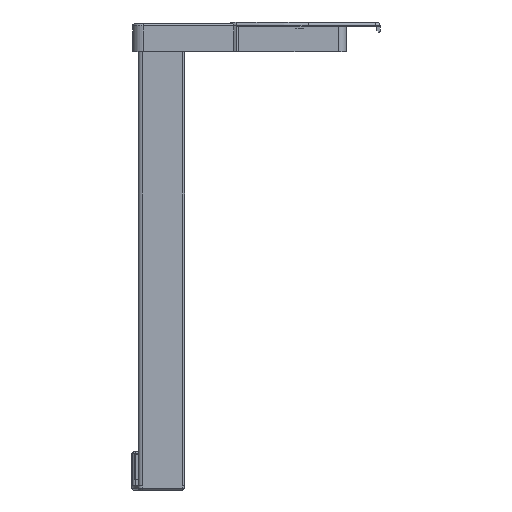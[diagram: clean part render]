
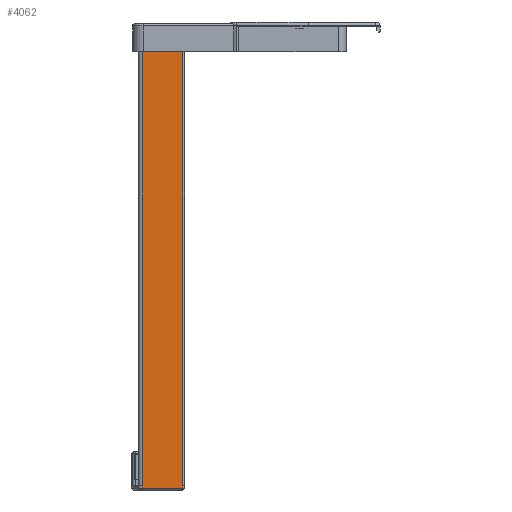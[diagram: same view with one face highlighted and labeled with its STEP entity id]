
A CAD part, left-side view. The second image highlights one B-rep face of the part: STEP entity #4062.
In plain terms, the highlighted planar face has unit normal (-1, 0, 0).
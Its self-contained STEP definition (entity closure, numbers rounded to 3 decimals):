
#206 = VERTEX_POINT ( 'NONE', #1482 ) ;
#279 = EDGE_CURVE ( 'NONE', #206, #280, #1605, .T. ) ;
#280 = VERTEX_POINT ( 'NONE', #1601 ) ;
#1482 = CARTESIAN_POINT ( 'NONE',  ( -415., 60.5, -16.2 ) ) ;
#1601 = CARTESIAN_POINT ( 'NONE',  ( -415., 34.5, -16.2 ) ) ;
#1602 = DIRECTION ( 'NONE',  ( 0., -1., 0. ) ) ;
#1603 = VECTOR ( 'NONE', #1602, 1000. ) ;
#1604 = CARTESIAN_POINT ( 'NONE',  ( -415., 60.5, -16.2 ) ) ;
#1605 = LINE ( 'NONE', #1604, #1603 ) ;
#3889 = VERTEX_POINT ( 'NONE', #5632 ) ;
#3893 = EDGE_CURVE ( 'NONE', #280, #3889, #5620, .T. ) ;
#3904 = EDGE_CURVE ( 'NONE', #3889, #3905, #5661, .T. ) ;
#3905 = VERTEX_POINT ( 'NONE', #5657 ) ;
#3973 = VERTEX_POINT ( 'NONE', #5804 ) ;
#3974 = EDGE_CURVE ( 'NONE', #3987, #3973, #5803, .T. ) ;
#3976 = EDGE_CURVE ( 'NONE', #4313, #3987, #5794, .T. ) ;
#3987 = VERTEX_POINT ( 'NONE', #5776 ) ;
#4045 = ORIENTED_EDGE ( 'NONE', *, *, #3904, .F. ) ;
#4046 = EDGE_LOOP ( 'NONE', ( #4047, #4045, #4078, #4082, #4075, #4083, #4076, #4077 ) ) ;
#4047 = ORIENTED_EDGE ( 'NONE', *, *, #4065, .T. ) ;
#4062 = ADVANCED_FACE ( 'NONE', ( #5938 ), #5934, .F. ) ;
#4065 = EDGE_CURVE ( 'NONE', #4313, #3905, #5929, .T. ) ;
#4074 = EDGE_CURVE ( 'NONE', #4080, #3973, #5970, .T. ) ;
#4075 = ORIENTED_EDGE ( 'NONE', *, *, #4079, .T. ) ;
#4076 = ORIENTED_EDGE ( 'NONE', *, *, #3974, .F. ) ;
#4077 = ORIENTED_EDGE ( 'NONE', *, *, #3976, .F. ) ;
#4078 = ORIENTED_EDGE ( 'NONE', *, *, #3893, .F. ) ;
#4079 = EDGE_CURVE ( 'NONE', #206, #4080, #5966, .T. ) ;
#4080 = VERTEX_POINT ( 'NONE', #5962 ) ;
#4082 = ORIENTED_EDGE ( 'NONE', *, *, #279, .F. ) ;
#4083 = ORIENTED_EDGE ( 'NONE', *, *, #4074, .T. ) ;
#4313 = VERTEX_POINT ( 'NONE', #6312 ) ;
#5617 = DIRECTION ( 'NONE',  ( 0., 0., -1. ) ) ;
#5618 = VECTOR ( 'NONE', #5617, 1000. ) ;
#5619 = CARTESIAN_POINT ( 'NONE',  ( -415., 34.5, 15.753 ) ) ;
#5620 = LINE ( 'NONE', #5619, #5618 ) ;
#5632 = CARTESIAN_POINT ( 'NONE',  ( -415., 34.5, -297. ) ) ;
#5657 = CARTESIAN_POINT ( 'NONE',  ( -415., 34.8, -297. ) ) ;
#5658 = DIRECTION ( 'NONE',  ( 0., 1., 0. ) ) ;
#5659 = VECTOR ( 'NONE', #5658, 1000. ) ;
#5660 = CARTESIAN_POINT ( 'NONE',  ( -415., 60.5, -297. ) ) ;
#5661 = LINE ( 'NONE', #5660, #5659 ) ;
#5776 = CARTESIAN_POINT ( 'NONE',  ( -415., 60.922, -298.8 ) ) ;
#5791 = DIRECTION ( 'NONE',  ( 0., 1., 0. ) ) ;
#5792 = VECTOR ( 'NONE', #5791, 1000. ) ;
#5793 = CARTESIAN_POINT ( 'NONE',  ( -415., 60.5, -298.8 ) ) ;
#5794 = LINE ( 'NONE', #5793, #5792 ) ;
#5800 = DIRECTION ( 'NONE',  ( 0., 0., 1. ) ) ;
#5801 = VECTOR ( 'NONE', #5800, 1000. ) ;
#5802 = CARTESIAN_POINT ( 'NONE',  ( -415., 60.922, -299.8 ) ) ;
#5803 = LINE ( 'NONE', #5802, #5801 ) ;
#5804 = CARTESIAN_POINT ( 'NONE',  ( -415., 60.922, -297. ) ) ;
#5926 = DIRECTION ( 'NONE',  ( 0., 0., 1. ) ) ;
#5927 = VECTOR ( 'NONE', #5926, 1000. ) ;
#5928 = CARTESIAN_POINT ( 'NONE',  ( -415., 34.8, -299.8 ) ) ;
#5929 = LINE ( 'NONE', #5928, #5927 ) ;
#5930 = DIRECTION ( 'NONE',  ( 0., 0., 1. ) ) ;
#5931 = DIRECTION ( 'NONE',  ( 1., 0., 0. ) ) ;
#5932 = CARTESIAN_POINT ( 'NONE',  ( -415., 60.5, 15.753 ) ) ;
#5933 = AXIS2_PLACEMENT_3D ( 'NONE', #5932, #5931, #5930 ) ;
#5934 = PLANE ( 'NONE',  #5933 ) ;
#5938 = FACE_OUTER_BOUND ( 'NONE', #4046, .T. ) ;
#5962 = CARTESIAN_POINT ( 'NONE',  ( -415., 60.5, -297. ) ) ;
#5963 = DIRECTION ( 'NONE',  ( 0., 0., -1. ) ) ;
#5964 = VECTOR ( 'NONE', #5963, 1000. ) ;
#5965 = CARTESIAN_POINT ( 'NONE',  ( -415., 60.5, 15.753 ) ) ;
#5966 = LINE ( 'NONE', #5965, #5964 ) ;
#5967 = DIRECTION ( 'NONE',  ( 0., 1., 0. ) ) ;
#5968 = VECTOR ( 'NONE', #5967, 1000. ) ;
#5969 = CARTESIAN_POINT ( 'NONE',  ( -415., 34.8, -297. ) ) ;
#5970 = LINE ( 'NONE', #5969, #5968 ) ;
#6312 = CARTESIAN_POINT ( 'NONE',  ( -415., 34.8, -298.8 ) ) ;
